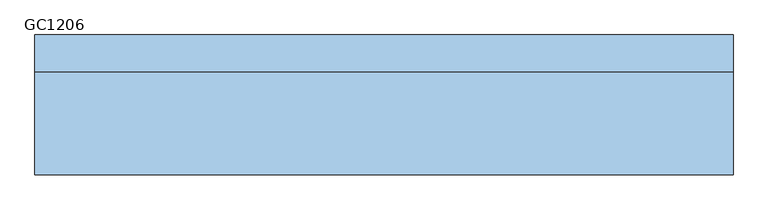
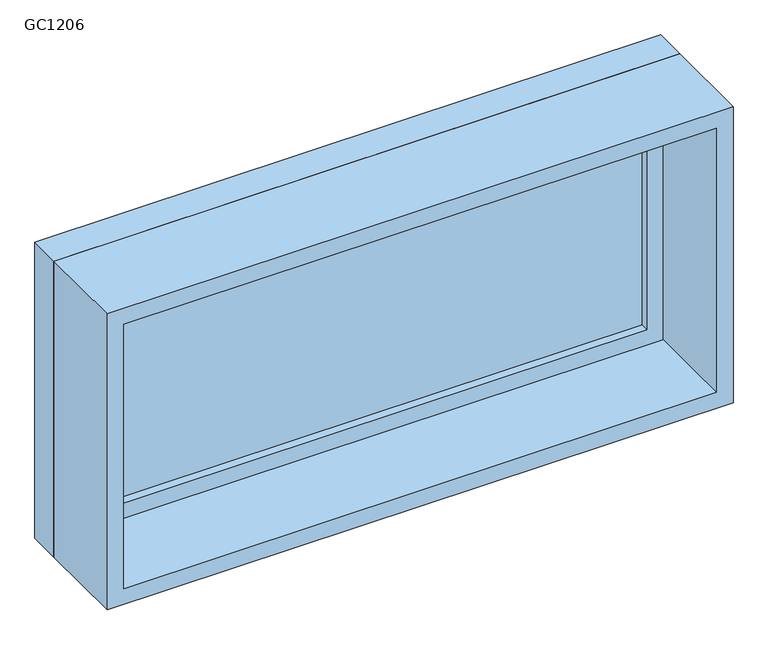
"""IFC4 building model written with IfcOpenShell, lengths in millimetres: window geometry, 固定 : GC1206."""

import ifcopenshell
import ifcopenshell.guid

model = None  # the IFC model being written
_history = None  # IfcOwnerHistory: only IFC2X3 demands one
_inside = {}  # id of a spatial element -> (the spatial element, [elements in it])
_under = {}  # id of a project, library or spatial element -> (it, [spatial elements below it])
_declared = {}  # id of a project -> (the project, [libraries it declares])
_typed = {}  # id of a type object -> (the type object, [elements of that type])
_made_of = {}  # id of a material, layer set ... -> (it, [elements and type objects made of it])


def new_model(schema):
    """Start an empty IFC model of exactly this schema.

    Asked for "IFC4X3", IfcOpenShell would pick the latest addendum, in which some entities
    have other attributes; the version numbers below select the first issue.
    IFC2X3 requires an IfcOwnerHistory on every rooted entity: one is made here for all.
    """
    global model, _history
    if schema == "IFC4X3":
        model = ifcopenshell.file(schema_version=(4, 3, 0, 0))
    else:
        model = ifcopenshell.file(schema=schema)
    _inside.clear()
    _under.clear()
    _declared.clear()
    _typed.clear()
    _made_of.clear()
    _history = None
    if model.schema == "IFC2X3":
        org = make("IfcOrganization", Name="unknown")
        user = make(
            "IfcPersonAndOrganization",
            ThePerson=make("IfcPerson", FamilyName="unknown"),
            TheOrganization=org,
        )
        app = make(
            "IfcApplication",
            ApplicationDeveloper=org,
            Version="unknown",
            ApplicationFullName="unknown",
            ApplicationIdentifier="unknown",
        )
        _history = make(
            "IfcOwnerHistory",
            OwningUser=user,
            OwningApplication=app,
            ChangeAction="ADDED",
            CreationDate=0,
        )
    return model


def make(cls, **values):
    """One entity of the class cls with the attributes given. An attribute that is None is left unset."""
    return model.create_entity(
        cls, **{name: value for name, value in values.items() if value is not None}
    )


def rooted(cls, **values):
    """An entity with a GlobalId (a new one), such as an element, a storey or a relation."""
    return make(cls, GlobalId=ifcopenshell.guid.new(), OwnerHistory=_history, **values)


def si_unit(unit_type, name, prefix=None):
    """IfcSIUnit, for example si_unit("LENGTHUNIT", "METRE", prefix="MILLI")."""
    return make("IfcSIUnit", UnitType=unit_type, Prefix=prefix, Name=name)


def assignment(units):
    """IfcUnitAssignment: the units of a project."""
    return None if units is None else make("IfcUnitAssignment", Units=units)


def point(xyz):
    """IfcCartesianPoint."""
    return None if xyz is None else make("IfcCartesianPoint", Coordinates=xyz)


def direction(xyz):
    """IfcDirection."""
    return None if xyz is None else make("IfcDirection", DirectionRatios=xyz)


def frame(location, z_axis=None, x_axis=None):
    """IfcAxis2Placement3D, a coordinate frame: its origin and axes. An axis left out is left unset."""
    return make(
        "IfcAxis2Placement3D",
        Location=point(location),
        Axis=direction(z_axis),
        RefDirection=direction(x_axis),
    )


def origin():
    """The frame at (0, 0, 0) with its axes left unset."""
    return frame((0.0, 0.0, 0.0))


def place(relative_to, where):
    """IfcLocalPlacement: puts the frame where relative to a parent placement (None: the world)."""
    return make(
        "IfcLocalPlacement", PlacementRelTo=relative_to, RelativePlacement=where
    )


def context(
    kind, dimensions, precision=None, world=None, true_north=None, identifier=None
):
    """IfcGeometricRepresentationContext, for example the 3D "Model" context."""
    return make(
        "IfcGeometricRepresentationContext",
        ContextIdentifier=identifier,
        ContextType=kind,
        CoordinateSpaceDimension=dimensions,
        Precision=precision,
        WorldCoordinateSystem=world,
        TrueNorth=true_north,
    )


def project(units=None, contexts=None):
    """IfcProject with its units and contexts."""
    return rooted(
        "IfcProject",
        Name="project",
        RepresentationContexts=contexts,
        UnitsInContext=assignment(units),
    )


def spatial(cls, under=None, at=None, **own):
    """A site, building, storey or space (cls), placed at a placement, below another one or the project."""
    s = rooted(cls, ObjectPlacement=at, **own)
    if under is not None:
        _under.setdefault(under.id(), (under, []))[1].append(s)
    return s


def polyline(points):
    """IfcPolyline through the points."""
    return make("IfcPolyline", Points=[point(p) for p in points])


def outline(outer, holes=None, kind="AREA"):
    """IfcArbitraryClosedProfileDef: a profile drawn as a closed curve; with holes, ...WithVoids."""
    if holes is None:
        return make("IfcArbitraryClosedProfileDef", ProfileType=kind, OuterCurve=outer)
    return make(
        "IfcArbitraryProfileDefWithVoids",
        ProfileType=kind,
        OuterCurve=outer,
        InnerCurves=holes,
    )


def extrude(swept, where, along, depth):
    """IfcExtrudedAreaSolid: the profile swept, set in the frame where, extruded along a direction by depth."""
    return make(
        "IfcExtrudedAreaSolid",
        SweptArea=swept,
        Position=where,
        ExtrudedDirection=direction(along),
        Depth=depth,
    )


def shape(context_of_items, identifier, shape_type, items):
    """IfcShapeRepresentation: the items that make up one representation, for example the "Body"."""
    return make(
        "IfcShapeRepresentation",
        ContextOfItems=context_of_items,
        RepresentationIdentifier=identifier,
        RepresentationType=shape_type,
        Items=items,
    )


def source(mapping_origin, context_of_items, identifier, shape_type, items):
    """IfcRepresentationMap: a shape defined once, which mapped items show again and again."""
    return make(
        "IfcRepresentationMap",
        MappingOrigin=mapping_origin,
        MappedRepresentation=shape(context_of_items, identifier, shape_type, items),
    )


def transform(
    local_origin,
    x_axis=None,
    y_axis=None,
    z_axis=None,
    scale=None,
    scale2=None,
    scale3=None,
    uniform=True,
):
    """IfcCartesianTransformationOperator3D, or its non-uniform kind. x_axis, y_axis, z_axis: its Axis1, 2, 3."""
    if uniform:
        return make(
            "IfcCartesianTransformationOperator3D",
            Axis1=direction(x_axis),
            Axis2=direction(y_axis),
            LocalOrigin=point(local_origin),
            Scale=scale,
            Axis3=direction(z_axis),
        )
    return make(
        "IfcCartesianTransformationOperator3DnonUniform",
        Axis1=direction(x_axis),
        Axis2=direction(y_axis),
        LocalOrigin=point(local_origin),
        Scale=scale,
        Axis3=direction(z_axis),
        Scale2=scale2,
        Scale3=scale3,
    )


def mapped(mapping_source, mapping_target):
    """IfcMappedItem: shows the shape of a source again, moved by a transform."""
    return make(
        "IfcMappedItem", MappingSource=mapping_source, MappingTarget=mapping_target
    )


def made_of(thing, what):
    """Note that an element or type object is made of a material, layer set ...; save() writes the relation."""
    if what is not None:
        _made_of.setdefault(what.id(), (what, []))[1].append(thing)
    return thing


def element(
    cls,
    number,
    at=None,
    inside=None,
    cuts=None,
    type_object=None,
    material=None,
    context=None,
    identifier="Body",
    shape_type=None,
    held_by="IfcProductDefinitionShape",
    body=None,
    shapes=None,
    **own,
):
    """One element of the class cls, such as IfcWall. Its Tag is "e" and its number.

    at: its placement. inside: the storey or other place that contains it. cuts: it is an
    opening in that element (IfcRelVoidsElement). A single representation is given by context,
    identifier, shape_type and body (its items); several are given by shapes. held_by: the class
    of the entity that holds the representations. save() writes the other relations.
    """
    e = rooted(cls, Tag="e%d" % number, ObjectPlacement=at, **own)
    if body is not None:
        shapes = [shape(context, identifier, shape_type, body)]
    if shapes is not None:
        e.Representation = make(held_by, Representations=shapes)
    if inside is not None:
        _inside.setdefault(inside.id(), (inside, []))[1].append(e)
    if cuts is not None:
        rooted(
            "IfcRelVoidsElement", RelatingBuildingElement=cuts, RelatedOpeningElement=e
        )
    if type_object is not None:
        _typed.setdefault(type_object.id(), (type_object, []))[1].append(e)
    return made_of(e, material)


def aggregate(whole, parts):
    """IfcRelAggregates: a whole, such as a stair, and the parts it consists of."""
    return rooted("IfcRelAggregates", RelatingObject=whole, RelatedObjects=parts)


def save(model, path):
    """Write the relations noted so far, then the file.

    IfcRelAggregates (storeys below a building ...), IfcRelContainedInSpatialStructure (elements
    in a storey), IfcRelDefinesByType, IfcRelAssociatesMaterial and IfcRelDeclares: one each for
    every whole, place, type object, material and project.
    """
    for whole, parts in _under.values():
        aggregate(whole, parts)
    for where, things in _inside.values():
        rooted(
            "IfcRelContainedInSpatialStructure",
            RelatedElements=things,
            RelatingStructure=where,
        )
    for kind, things in _typed.values():
        rooted("IfcRelDefinesByType", RelatedObjects=things, RelatingType=kind)
    for what, things in _made_of.values():
        rooted("IfcRelAssociatesMaterial", RelatedObjects=things, RelatingMaterial=what)
    for by, libraries in _declared.values():
        rooted("IfcRelDeclares", RelatingContext=by, RelatedDefinitions=libraries)
    model.write(path)


def gc1206_d9a31f06(model_context):
    return source(origin(), model_context, "Body", "SweptSolid", [
        extrude(outline(polyline([(-537.0, 98.0), (537.0, 98.0), (537.0, 86.0), (-537.0, 86.0), (-537.0, 98.0)])), frame((0.0, 0.0, 978.0), z_axis=(0.0, 0.0, 1.0), x_axis=(1.0, 0.0, 0.0)), (0.0, 0.0, 1.0), 474.0),
        extrude(outline(polyline([(1496.0, -581.0), (934.0, -581.0), (934.0, 581.0), (1496.0, 581.0), (1496.0, -581.0)]), holes=[polyline([(1452.0, -537.0), (1452.0, 537.0), (978.0, 537.0), (978.0, -537.0), (1452.0, -537.0)])]), frame((0.0, 70.0, 0.0), z_axis=(0.0, 1.0, 0.0), x_axis=(0.0, 0.0, 1.0)), (0.0, 0.0, 1.0), 44.0),
        extrude(outline(polyline([(1515.0, -600.0), (915.0, -600.0), (915.0, 600.0), (1515.0, 600.0), (1515.0, -600.0)]), holes=[polyline([(1496.0, -581.0), (1496.0, 581.0), (934.0, 581.0), (934.0, -581.0), (1496.0, -581.0)])]), frame((0.0, 70.0, 0.0), z_axis=(0.0, 1.0, 0.0), x_axis=(0.0, 0.0, 1.0)), (0.0, 0.0, 1.0), 63.0),
        extrude(outline(polyline([(1515.0, -600.0), (915.0, -600.0), (915.0, 600.0), (1515.0, 600.0), (1515.0, -600.0)]), holes=[polyline([(1483.0, -568.0), (1483.0, 568.0), (947.0, 568.0), (947.0, -568.0), (1483.0, -568.0)])]), frame((0.0, -107.0, 0.0), z_axis=(0.0, 1.0, 0.0), x_axis=(0.0, 0.0, 1.0)), (0.0, 0.0, 1.0), 177.0),
    ])


if __name__ == "__main__":
    model = new_model("IFC4")
    model_context = context("Model", 3, world=origin())
    ifc_project = project(units=[si_unit("LENGTHUNIT", "METRE", prefix="MILLI")], contexts=[model_context])
    site = spatial("IfcSite", under=ifc_project)
    building = spatial("IfcBuilding", under=site)
    placement = place(None, origin())
    gc1206_shape = gc1206_d9a31f06(model_context)
    element("IfcWindow", 1, ObjectType="固定 : GC1206", at=placement, inside=building, context=model_context, shape_type="MappedRepresentation", body=[
        mapped(gc1206_shape, transform((0.0, 0.0, 0.0), x_axis=(1.0, 0.0, 0.0), y_axis=(0.0, 1.0, 0.0), z_axis=(0.0, 0.0, 1.0))),
    ])
    save(model, "model.ifc")
